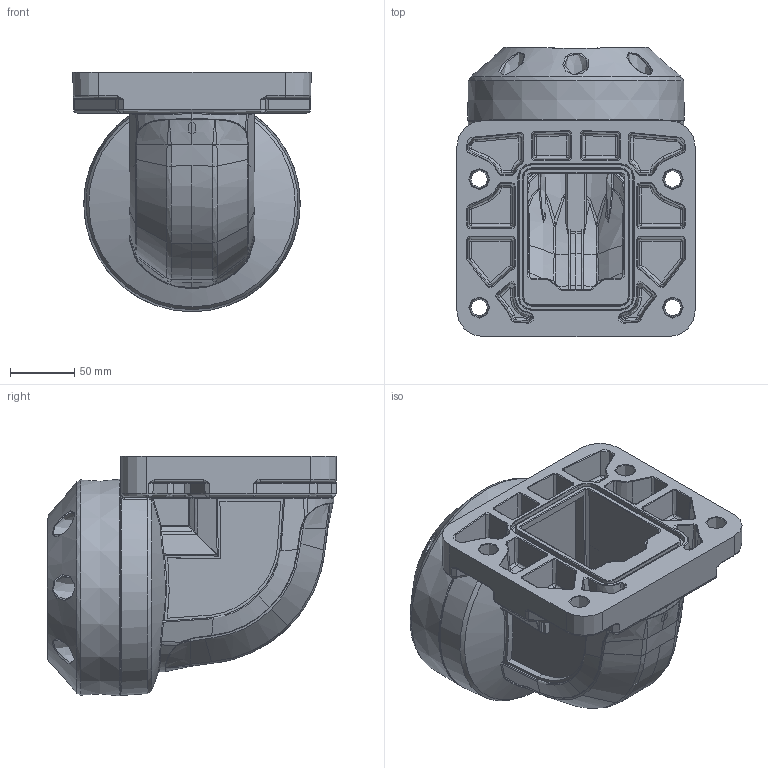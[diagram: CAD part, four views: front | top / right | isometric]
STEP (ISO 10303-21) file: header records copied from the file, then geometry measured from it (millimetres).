
FILE_DESCRIPTION(/* description */ (''),/* implementation_level */ '2;1');
FILE_NAME(/* name */ '75-110-570.stp',/* time_stamp */ '2023-01-13T16:30:14+08:00',/* author */ (''),/* organization */ (''),/* preprocessor_version */ 'ST-DEVELOPER v11',/* originating_system */ 'SIEMENS PLM Software NX 7.0',/* authorisation */ '');
FILE_SCHEMA (('AUTOMOTIVE_DESIGN { 1 0 10303 214 1 1 1 1 }'));
Products named in the file (1): PCCFB1eyuv
Bounding box: 185.3 x 225.1 x 186.51 mm (x, y, z)
Volume: 1297318.1 mm3; surface area: 375852 mm2
Topology: 3 solids, 9 shells, 2457 faces, 5803 edges, 3352 vertices
Faces by surface type: bspline 1104, cylinder 525, plane 349, torus 227, cone 151, sphere 68, extrusion 33
Full cylindrical faces by diameter (mm): 3.5 x1, 4.5 x1, 8.5 x1, 13.754 x4
Entity records: 123349 total; most frequent: CARTESIAN_POINT 59091, ORIENTED_EDGE 11044, DIRECTION 7877, EDGE_CURVE 5522, AXIS2_PLACEMENT_3D 3334, VERTEX_POINT 3286, EDGE_LOOP 2726, PRESENTATION_STYLE_ASSIGNMENT 2460
